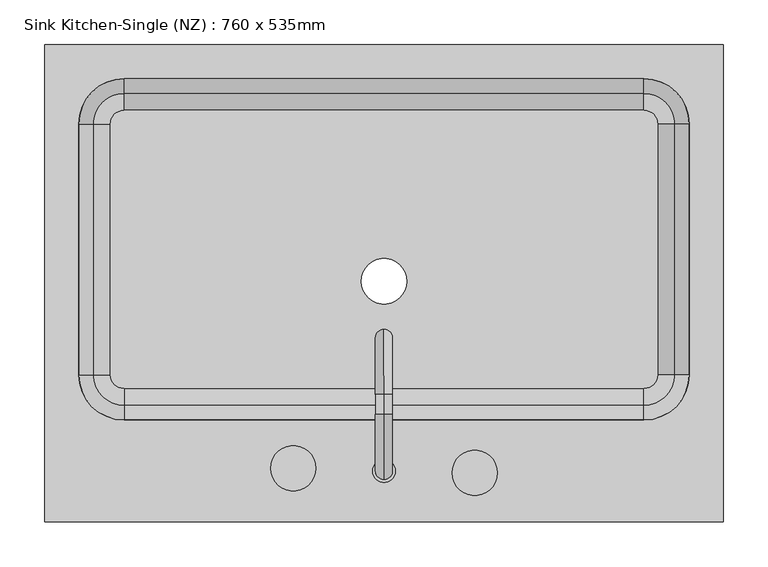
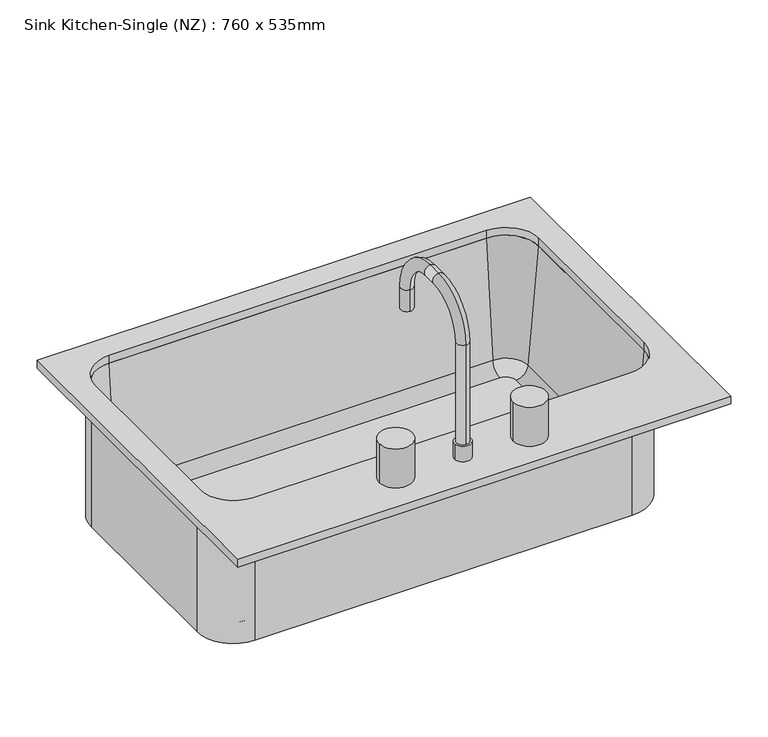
"""IFC4 building model written with IfcOpenShell, lengths in millimetres: flow terminal geometry, Sink Kitchen-Single (NZ) : 760 x 535mm."""

from ifc_helpers import new_model, si_unit, point, frame, frame_2d, origin, place, context, project, spatial, polyline, circle_curve, ellipse_curve, trimmed, segment, composite_curve, outline, extrude, source, transform, mapped, element, save
from ifc_brep_helpers import plane_surface, cylinder_surface, revolved_surface, advanced_brep


def sink_kitchen_single_nz_760_x_535mm_eb015a84(model_context):
    return source(origin(), model_context, "Body", "SolidModel", [
        advanced_brep(
        [(363.9392406, -104.7454011, 684.1), (363.9392406, -104.7454011, 900.0), (306.7892406, -161.8954011, 900.0), (306.7892406, -161.8954011, 684.1), (-275.4107594, -161.8954011, 684.1), (-332.5607594, -104.7454011, 684.1), (-332.5607594, 176.2545989, 684.1), (-275.4107594, 233.4045989, 684.1), (306.7892406, 233.4045989, 684.1), (363.9392406, 176.2545989, 684.1), (-9.7107594, 0.0, 684.1), (41.0892406, 0.0, 684.1), (322.0776588, -104.7454011, 693.625), (322.0776588, 176.2545989, 693.625), (306.7892406, 191.5430171, 693.625), (-275.4107594, 191.5430171, 693.625), (-290.6991776, 176.2545989, 693.625), (-290.6991776, -104.7454011, 693.625), (-275.4107594, -120.0338193, 693.625), (306.7892406, -120.0338193, 693.625), (-9.7107594, 0.0, 693.625), (41.0892406, 0.0, 693.625), (306.7892406, -139.0113283, 711.0146831), (341.0551678, -104.7454011, 711.0146831), (306.7892406, -155.5454011, 900.0), (357.5892406, -104.7454011, 900.0), (363.9392406, 176.2545989, 900.0), (341.0551678, 176.2545989, 711.0146831), (357.5892406, 176.2545989, 900.0), (306.7892406, 233.4045989, 900.0), (306.7892406, 210.5205261, 711.0146831), (306.7892406, 227.0545989, 900.0), (-275.4107594, 233.4045989, 900.0), (-275.4107594, 210.5205261, 711.0146831), (-275.4107594, 227.0545989, 900.0), (-332.5607594, 176.2545989, 900.0), (-309.6766866, 176.2545989, 711.0146831), (-326.2107594, 176.2545989, 900.0), (-332.5607594, -104.7454011, 900.0), (-309.6766866, -104.7454011, 711.0146831), (-326.2107594, -104.7454011, 900.0), (-275.4107594, -161.8954011, 900.0), (-275.4107594, -139.0113283, 711.0146831), (-275.4107594, -155.5454011, 900.0)],
        [
            (0, 1),
            (1, 2, circle_curve(frame((306.7892406, -104.7454011, 900.0), z_axis=(0.0, 0.0, -1.0), x_axis=(0.0, -1.0, 0.0)), 57.15)),
            (2, 3),
            (3, 0, circle_curve(frame((306.7892406, -104.7454011, 684.1), z_axis=(0.0, 0.0, 1.0), x_axis=(0.0, -1.0, 0.0)), 57.15)),
            (3, 4),
            (4, 5, circle_curve(frame((-275.4107594, -104.7454011, 684.1), z_axis=(0.0, 0.0, -1.0), x_axis=(-1.0, 0.0, 0.0)), 57.15)),
            (5, 6),
            (6, 7, circle_curve(frame((-275.4107594, 176.2545989, 684.1), z_axis=(0.0, 0.0, -1.0), x_axis=(0.0, 1.0, 0.0)), 57.15)),
            (7, 8),
            (8, 9, circle_curve(frame((306.7892406, 176.2545989, 684.1), z_axis=(0.0, 0.0, -1.0), x_axis=(1.0, 0.0, 0.0)), 57.15)),
            (9, 0),
            (10, 11, circle_curve(frame((15.6892406, 0.0, 684.1), z_axis=(0.0, 0.0, 1.0), x_axis=(1.0, 0.0, 0.0)), 25.4)),
            (11, 10, circle_curve(frame((15.6892406, 0.0, 684.1), z_axis=(0.0, 0.0, 1.0), x_axis=(1.0, 0.0, 0.0)), 25.4)),
            (12, 13),
            (13, 14, circle_curve(frame((306.7892406, 176.2545989, 693.625), z_axis=(0.0, 0.0, 1.0), x_axis=(1.0, 0.0, 0.0)), 15.2884182)),
            (14, 15),
            (15, 16, circle_curve(frame((-275.4107594, 176.2545989, 693.625), z_axis=(0.0, 0.0, 1.0), x_axis=(0.0, 1.0, 0.0)), 15.2884182)),
            (16, 17),
            (17, 18, circle_curve(frame((-275.4107594, -104.7454011, 693.625), z_axis=(0.0, 0.0, 1.0), x_axis=(-1.0, 0.0, 0.0)), 15.2884182)),
            (18, 19),
            (19, 12, circle_curve(frame((306.7892406, -104.7454011, 693.625), z_axis=(0.0, 0.0, 1.0), x_axis=(0.0, -1.0, 0.0)), 15.2884182)),
            (20, 21, circle_curve(frame((15.6892406, 0.0, 693.625), z_axis=(0.0, 0.0, -1.0), x_axis=(1.0, 0.0, 0.0)), 25.4)),
            (21, 20, circle_curve(frame((15.6892406, 0.0, 693.625), z_axis=(0.0, 0.0, -1.0), x_axis=(1.0, 0.0, 0.0)), 25.4)),
            (19, 22, circle_curve(frame((306.7892406, -120.0338193, 712.675), z_axis=(-1.0, 0.0, 0.0), x_axis=(0.0, -1.0, 0.0)), 19.05)),
            (22, 23, circle_curve(frame((306.7892406, -104.7454011, 711.0146831), z_axis=(0.0, 0.0, 1.0), x_axis=(0.0, -1.0, 0.0)), 34.2659272)),
            (23, 12, circle_curve(frame((322.0776588, -104.7454011, 712.675), z_axis=(0.0, 1.0, 0.0), x_axis=(1.0, 0.0, 0.0)), 19.05)),
            (22, 24),
            (24, 25, circle_curve(frame((306.7892406, -104.7454011, 900.0), z_axis=(0.0, 0.0, 1.0), x_axis=(0.0, -1.0, 0.0)), 50.8)),
            (25, 23),
            (1, 25),
            (24, 2),
            (9, 26),
            (26, 1),
            (23, 27),
            (27, 13, circle_curve(frame((322.0776588, 176.2545989, 712.675), z_axis=(0.0, 1.0, 0.0), x_axis=(1.0, 0.0, 0.0)), 19.05)),
            (25, 28),
            (28, 27),
            (26, 28),
            (8, 29),
            (29, 26, circle_curve(frame((306.7892406, 176.2545989, 900.0), z_axis=(0.0, 0.0, -1.0), x_axis=(1.0, 0.0, 0.0)), 57.15)),
            (27, 30, circle_curve(frame((306.7892406, 176.2545989, 711.0146831), z_axis=(0.0, 0.0, 1.0), x_axis=(1.0, 0.0, 0.0)), 34.2659272)),
            (30, 14, circle_curve(frame((306.7892406, 191.5430171, 712.675), z_axis=(-1.0, 0.0, 0.0), x_axis=(0.0, 1.0, 0.0)), 19.05)),
            (28, 31, circle_curve(frame((306.7892406, 176.2545989, 900.0), z_axis=(0.0, 0.0, 1.0), x_axis=(1.0, 0.0, 0.0)), 50.8)),
            (31, 30),
            (29, 31),
            (7, 32),
            (32, 29),
            (30, 33),
            (33, 15, circle_curve(frame((-275.4107594, 191.5430171, 712.675), z_axis=(-1.0, 0.0, 0.0), x_axis=(0.0, 1.0, 0.0)), 19.05)),
            (31, 34),
            (34, 33),
            (32, 34),
            (6, 35),
            (35, 32, circle_curve(frame((-275.4107594, 176.2545989, 900.0), z_axis=(0.0, 0.0, -1.0), x_axis=(0.0, 1.0, 0.0)), 57.15)),
            (33, 36, circle_curve(frame((-275.4107594, 176.2545989, 711.0146831), z_axis=(0.0, 0.0, 1.0), x_axis=(0.0, 1.0, 0.0)), 34.2659272)),
            (36, 16, circle_curve(frame((-290.6991776, 176.2545989, 712.675), z_axis=(0.0, -1.0, 0.0), x_axis=(-1.0, 0.0, 0.0)), 19.05)),
            (34, 37, circle_curve(frame((-275.4107594, 176.2545989, 900.0), z_axis=(0.0, 0.0, 1.0), x_axis=(0.0, 1.0, 0.0)), 50.8)),
            (37, 36),
            (35, 37),
            (5, 38),
            (38, 35),
            (36, 39),
            (39, 17, circle_curve(frame((-290.6991776, -104.7454011, 712.675), z_axis=(0.0, -1.0, 0.0), x_axis=(-1.0, 0.0, 0.0)), 19.05)),
            (37, 40),
            (40, 39),
            (38, 40),
            (4, 41),
            (41, 38, circle_curve(frame((-275.4107594, -104.7454011, 900.0), z_axis=(0.0, 0.0, -1.0), x_axis=(-1.0, 0.0, 0.0)), 57.15)),
            (39, 42, circle_curve(frame((-275.4107594, -104.7454011, 711.0146831), z_axis=(0.0, 0.0, 1.0), x_axis=(-1.0, 0.0, 0.0)), 34.2659272)),
            (42, 18, circle_curve(frame((-275.4107594, -120.0338193, 712.675), z_axis=(1.0, 0.0, 0.0), x_axis=(0.0, -1.0, 0.0)), 19.05)),
            (40, 43, circle_curve(frame((-275.4107594, -104.7454011, 900.0), z_axis=(0.0, 0.0, 1.0), x_axis=(-1.0, 0.0, 0.0)), 50.8)),
            (43, 42),
            (41, 43),
            (2, 41),
            (42, 22),
            (43, 24),
            (21, 11),
            (10, 20),
        ],
        [
            cylinder_surface(frame((306.7892406, -104.7454011, 0.0), z_axis=(0.0, 0.0, -1.0), x_axis=(0.0, -1.0, 0.0)), 57.15),
            plane_surface(frame((306.7892406, -104.7454011, 684.1), z_axis=(0.0, 0.0, -1.0), x_axis=(0.0, -1.0, 0.0))),
            plane_surface(frame((306.7892406, -104.7454011, 693.625), z_axis=(0.0, 0.0, 1.0), x_axis=(0.0, -1.0, 0.0))),
            revolved_surface(trimmed(ellipse_curve(frame((306.7892406, -120.0338193, 712.675), z_axis=(-1.0, 0.0, 0.0), x_axis=(0.0, -1.0, 0.0)), 19.05, 19.05), [point((306.7892406, -120.0338193, 693.625))], [point((306.7892406, -139.0113283, 711.0146831))], True, "CARTESIAN"), (306.7892406, -104.7454011, 0.0), (0.0, 0.0, -1.0)),
            revolved_surface(polyline([(306.7892406, -139.0113283, 711.0146831), (306.7892406, -155.5454011, 900.0)]), (306.7892406, -104.7454011, 0.0), (0.0, 0.0, -1.0)),
            plane_surface(frame((306.7892406, -104.7454011, 900.0), z_axis=(0.0, 0.0, 1.0), x_axis=(0.0, -1.0, 0.0))),
            plane_surface(frame((363.9392406, -104.7454011, 900.0), z_axis=(1.0, 0.0, 0.0), x_axis=(0.0, 1.0, 0.0))),
            revolved_surface(polyline([(341.1276588, 176.25459890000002, 712.675), (341.1276588, -104.7454011, 712.675)]), (322.0776588, -104.7454011, 712.675), (0.0, 1.0, 0.0)),
            plane_surface(frame((341.0551678, -104.7454011, 711.0146831), z_axis=(-0.9961946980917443, 0.0, 0.08715574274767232), x_axis=(0.0, 1.0, 0.0))),
            plane_surface(frame((357.5892406, -104.7454011, 900.0), z_axis=(0.0, 0.0, 1.0), x_axis=(0.0, 1.0, 0.0))),
            cylinder_surface(frame((306.7892406, 176.2545989, 0.0), z_axis=(0.0, 0.0, -1.0), x_axis=(1.0, 0.0, 0.0)), 57.15),
            revolved_surface(trimmed(ellipse_curve(frame((322.0776588, 176.2545989, 712.675), z_axis=(0.0, -1.0, 0.0), x_axis=(1.0, 0.0, 0.0)), 19.05, 19.05), [point((322.0776588, 176.2545989, 693.625))], [point((341.0551678, 176.2545989, 711.0146831))], True, "CARTESIAN"), (306.7892406, 176.2545989, 0.0), (0.0, 0.0, -1.0)),
            revolved_surface(polyline([(341.0551678, 176.2545989, 711.0146831), (357.5892406, 176.2545989, 900.0)]), (306.7892406, 176.2545989, 0.0), (0.0, 0.0, -1.0)),
            plane_surface(frame((306.7892406, 176.2545989, 900.0), z_axis=(0.0, 0.0, 1.0), x_axis=(1.0, 0.0, 0.0))),
            plane_surface(frame((306.7892406, 233.4045989, 900.0), z_axis=(0.0, 1.0, 0.0), x_axis=(-1.0, 0.0, 0.0))),
            revolved_surface(polyline([(-275.4107594, 210.5930171, 712.675), (306.7892406, 210.5930171, 712.675)]), (306.7892406, 191.5430171, 712.675), (-1.0, 0.0, 0.0)),
            plane_surface(frame((306.7892406, 210.5205261, 711.0146831), z_axis=(0.0, -0.9961946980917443, 0.08715574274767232), x_axis=(-1.0, 0.0, 0.0))),
            plane_surface(frame((306.7892406, 227.0545989, 900.0), z_axis=(0.0, 0.0, 1.0), x_axis=(-1.0, 0.0, 0.0))),
            cylinder_surface(frame((-275.4107594, 176.2545989, 0.0), z_axis=(0.0, 0.0, -1.0), x_axis=(0.0, 1.0, 0.0)), 57.15),
            revolved_surface(trimmed(ellipse_curve(frame((-275.4107594, 191.5430171, 712.675), z_axis=(1.0, 0.0, 0.0), x_axis=(0.0, 1.0, 0.0)), 19.05, 19.05), [point((-275.4107594, 191.5430171, 693.625))], [point((-275.4107594, 210.5205261, 711.0146831))], True, "CARTESIAN"), (-275.4107594, 176.2545989, 0.0), (0.0, 0.0, -1.0)),
            revolved_surface(polyline([(-275.4107594, 210.5205261, 711.0146831), (-275.4107594, 227.0545989, 900.0)]), (-275.4107594, 176.2545989, 0.0), (0.0, 0.0, -1.0)),
            plane_surface(frame((-275.4107594, 176.2545989, 900.0), z_axis=(0.0, 0.0, 1.0), x_axis=(0.0, 1.0, 0.0))),
            plane_surface(frame((-332.5607594, 176.2545989, 900.0), z_axis=(-1.0, 0.0, 0.0), x_axis=(0.0, -1.0, 0.0))),
            revolved_surface(polyline([(-309.7491776, -104.74540110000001, 712.675), (-309.7491776, 176.2545989, 712.675)]), (-290.6991776, 176.2545989, 712.675), (0.0, -1.0, 0.0)),
            plane_surface(frame((-309.6766866, 176.2545989, 711.0146831), z_axis=(0.9961946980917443, 0.0, 0.08715574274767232), x_axis=(0.0, -1.0, 0.0))),
            plane_surface(frame((-326.2107594, 176.2545989, 900.0), z_axis=(0.0, 0.0, 1.0), x_axis=(0.0, -1.0, 0.0))),
            cylinder_surface(frame((-275.4107594, -104.7454011, 0.0), z_axis=(0.0, 0.0, -1.0), x_axis=(-1.0, 0.0, 0.0)), 57.15),
            revolved_surface(trimmed(ellipse_curve(frame((-290.6991776, -104.7454011, 712.675), z_axis=(0.0, 1.0, 0.0), x_axis=(-1.0, 0.0, 0.0)), 19.05, 19.05), [point((-290.6991776, -104.7454011, 693.625))], [point((-309.6766866, -104.7454011, 711.0146831))], True, "CARTESIAN"), (-275.4107594, -104.7454011, 0.0), (0.0, 0.0, -1.0)),
            revolved_surface(polyline([(-309.6766866, -104.7454011, 711.0146831), (-326.2107594, -104.7454011, 900.0)]), (-275.4107594, -104.7454011, 0.0), (0.0, 0.0, -1.0)),
            plane_surface(frame((-275.4107594, -104.7454011, 900.0), z_axis=(0.0, 0.0, 1.0), x_axis=(-1.0, 0.0, 0.0))),
            plane_surface(frame((-275.4107594, -161.8954011, 900.0), z_axis=(0.0, -1.0, 0.0), x_axis=(1.0, 0.0, 0.0))),
            revolved_surface(polyline([(306.7892406, -139.08381930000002, 712.675), (-275.4107594, -139.08381930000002, 712.675)]), (-275.4107594, -120.0338193, 712.675), (1.0, 0.0, 0.0)),
            plane_surface(frame((-275.4107594, -139.0113283, 711.0146831), z_axis=(0.0, 0.9961946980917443, 0.08715574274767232), x_axis=(1.0, 0.0, 0.0))),
            plane_surface(frame((-275.4107594, -155.5454011, 900.0), z_axis=(0.0, 0.0, 1.0), x_axis=(1.0, 0.0, 0.0))),
            revolved_surface(polyline([(41.0892406, 0.0, 684.1), (41.0892406, 0.0, 693.625)]), (15.6892406, 0.0, 0.0), (0.0, 0.0, -1.0)),
        ],
        [
            (0, [[1, 2, 3, 4]]),
            (1, [[5, 6, 7, 8, 9, 10, 11, -4], [12, 13]]),
            (2, [[14, 15, 16, 17, 18, 19, 20, 21], [22, 23]]),
            (3, [[24, 25, 26, -21]]),
            (4, [[27, 28, 29, -25]]),
            (5, [[30, -28, 31, -2]]),
            (6, [[-11, 32, 33, -1]]),
            (7, [[34, 35, -14, -26]]),
            (8, [[36, 37, -34, -29]]),
            (9, [[-33, 38, -36, -30]]),
            (10, [[-10, 39, 40, -32]]),
            (11, [[41, 42, -15, -35]]),
            (12, [[43, 44, -41, -37]]),
            (13, [[-40, 45, -43, -38]]),
            (14, [[-9, 46, 47, -39]]),
            (15, [[48, 49, -16, -42]]),
            (16, [[50, 51, -48, -44]]),
            (17, [[-47, 52, -50, -45]]),
            (18, [[-8, 53, 54, -46]]),
            (19, [[55, 56, -17, -49]]),
            (20, [[57, 58, -55, -51]]),
            (21, [[-54, 59, -57, -52]]),
            (22, [[-7, 60, 61, -53]]),
            (23, [[62, 63, -18, -56]]),
            (24, [[64, 65, -62, -58]]),
            (25, [[-61, 66, -64, -59]]),
            (26, [[-6, 67, 68, -60]]),
            (27, [[69, 70, -19, -63]]),
            (28, [[71, 72, -69, -65]]),
            (29, [[-68, 73, -71, -66]]),
            (30, [[74, -67, -5, -3]]),
            (31, [[-20, -70, 75, -24]]),
            (32, [[-75, -72, 76, -27]]),
            (33, [[-76, -73, -74, -31]]),
            (34, [[77, -12, 78, -23]]),
            (34, [[-78, -13, -77, -22]]),
        ],
    ),
        advanced_brep(
        [(2.9892406, -212.6954011, 938.1), (28.3892406, -212.6954011, 938.1), (15.6892406, -222.2204011, 938.1), (15.6892406, -203.1704011, 938.1), (2.9892406, -212.6954011, 912.7), (28.3892406, -212.6954011, 912.7), (15.6892406, -222.2204011, 1100.025), (15.6892406, -203.1704011, 1100.025), (15.6892406, -149.1954011, 1154.0), (15.6892406, -149.1954011, 1173.05), (15.6892406, -126.9704011, 1154.0), (15.6892406, -126.9704011, 1173.05), (15.6892406, -72.9954011, 1100.025), (15.6892406, -53.9454011, 1100.025), (15.6892406, -53.9454011, 1065.1), (15.6892406, -72.9954011, 1065.1)],
        [
            (0, 1, circle_curve(frame((15.6892406, -212.6954011, 938.1), z_axis=(0.0, 0.0, 1.0), x_axis=(1.0, 0.0, 0.0)), 12.7)),
            (1, 0, circle_curve(frame((15.6892406, -212.6954011, 938.1), z_axis=(0.0, 0.0, 1.0), x_axis=(1.0, 0.0, 0.0)), 12.7)),
            (2, 3, circle_curve(frame((15.6892406, -212.6954011, 938.1), z_axis=(0.0, 0.0, -1.0), x_axis=(0.0, 1.0, 0.0)), 9.525)),
            (3, 2, circle_curve(frame((15.6892406, -212.6954011, 938.1), z_axis=(0.0, 0.0, -1.0), x_axis=(0.0, 1.0, 0.0)), 9.525)),
            (4, 5, circle_curve(frame((15.6892406, -212.6954011, 912.7), z_axis=(0.0, 0.0, -1.0), x_axis=(1.0, 0.0, 0.0)), 12.7)),
            (5, 4, circle_curve(frame((15.6892406, -212.6954011, 912.7), z_axis=(0.0, 0.0, -1.0), x_axis=(1.0, 0.0, 0.0)), 12.7)),
            (1, 5),
            (4, 0),
            (6, 2),
            (3, 7),
            (7, 6, circle_curve(frame((15.6892406, -212.6954011, 1100.025), z_axis=(0.0, 0.0, -1.0), x_axis=(0.0, 1.0, 0.0)), 9.525)),
            (6, 7, circle_curve(frame((15.6892406, -212.6954011, 1100.025), z_axis=(0.0, 0.0, -1.0), x_axis=(0.0, 1.0, 0.0)), 9.525)),
            (7, 8, circle_curve(frame((15.6892406, -149.1954011, 1100.025), z_axis=(-1.0, 0.0, 0.0), x_axis=(0.0, -1.0, 0.0)), 53.975)),
            (8, 9, circle_curve(frame((15.6892406, -149.1954011, 1163.525), z_axis=(0.0, -1.0, 0.0), x_axis=(0.0, 0.0, -1.0)), 9.525)),
            (9, 6, circle_curve(frame((15.6892406, -149.1954011, 1100.025), z_axis=(1.0, 0.0, 0.0), x_axis=(0.0, -1.0, 0.0)), 73.025)),
            (9, 8, circle_curve(frame((15.6892406, -149.1954011, 1163.525), z_axis=(0.0, -1.0, 0.0), x_axis=(0.0, 0.0, -1.0)), 9.525)),
            (8, 10),
            (10, 11, circle_curve(frame((15.6892406, -126.9704011, 1163.525), z_axis=(0.0, -1.0, 0.0), x_axis=(0.0, 0.0, -1.0)), 9.525)),
            (11, 9),
            (11, 10, circle_curve(frame((15.6892406, -126.9704011, 1163.525), z_axis=(0.0, -1.0, 0.0), x_axis=(0.0, 0.0, -1.0)), 9.525)),
            (10, 12, circle_curve(frame((15.6892406, -126.9704011, 1100.025), z_axis=(-1.0, 0.0, 0.0), x_axis=(0.0, 0.0, 1.0)), 53.975)),
            (12, 13, circle_curve(frame((15.6892406, -63.4704011, 1100.025), z_axis=(0.0, 0.0, 1.0), x_axis=(0.0, -1.0, 0.0)), 9.525)),
            (13, 11, circle_curve(frame((15.6892406, -126.9704011, 1100.025), z_axis=(1.0, 0.0, 0.0), x_axis=(0.0, 0.0, 1.0)), 73.025)),
            (13, 12, circle_curve(frame((15.6892406, -63.4704011, 1100.025), z_axis=(0.0, 0.0, 1.0), x_axis=(0.0, -1.0, 0.0)), 9.525)),
            (14, 15, circle_curve(frame((15.6892406, -63.4704011, 1065.1), z_axis=(0.0, 0.0, -1.0), x_axis=(0.0, -1.0, 0.0)), 9.525)),
            (15, 14, circle_curve(frame((15.6892406, -63.4704011, 1065.1), z_axis=(0.0, 0.0, -1.0), x_axis=(0.0, -1.0, 0.0)), 9.525)),
            (12, 15),
            (14, 13),
        ],
        [
            plane_surface(frame((28.3892406, -212.6954011, 938.1), z_axis=(0.0, 0.0, 1.0), x_axis=(0.0, -1.0, 0.0))),
            plane_surface(frame((28.3892406, -212.6954011, 912.7), z_axis=(0.0, 0.0, -1.0), x_axis=(0.0, 1.0, 0.0))),
            cylinder_surface(frame((15.6892406, -212.6954011, 912.7), z_axis=(0.0, 0.0, 1.0), x_axis=(1.0, 0.0, 0.0)), 12.7),
            cylinder_surface(frame((15.6892406, -212.6954011, 912.7), z_axis=(0.0, 0.0, -1.0), x_axis=(0.0, 1.0, 0.0)), 9.525),
            revolved_surface(trimmed(ellipse_curve(frame((15.6892406, -212.6954011, 1100.025), z_axis=(0.0, 0.0, 1.0), x_axis=(0.0, 1.0, 0.0)), 9.525, 9.525), [point((15.6892406, -222.2204011, 1100.025))], [point((15.6892406, -203.1704011, 1100.025))], True, "CARTESIAN"), (15.6892406, -149.1954011, 1100.025), (1.0, 0.0, 0.0)),
            revolved_surface(trimmed(ellipse_curve(frame((15.6892406, -212.6954011, 1100.025), z_axis=(0.0, 0.0, 1.0), x_axis=(0.0, 1.0, 0.0)), 9.525, 9.525), [point((15.6892406, -203.1704011, 1100.025))], [point((15.6892406, -222.2204011, 1100.025))], True, "CARTESIAN"), (15.6892406, -149.1954011, 1100.025), (1.0, 0.0, 0.0)),
            cylinder_surface(frame((15.6892406, -149.1954011, 1163.525), z_axis=(0.0, -1.0, 0.0), x_axis=(0.0, 0.0, -1.0)), 9.525),
            revolved_surface(trimmed(ellipse_curve(frame((15.6892406, -126.9704011, 1163.525), z_axis=(0.0, 1.0, 0.0), x_axis=(0.0, 0.0, -1.0)), 9.525, 9.525), [point((15.6892406, -126.9704011, 1173.05))], [point((15.6892406, -126.9704011, 1154.0))], True, "CARTESIAN"), (15.6892406, -126.9704011, 1100.025), (1.0, 0.0, 0.0)),
            revolved_surface(trimmed(ellipse_curve(frame((15.6892406, -126.9704011, 1163.525), z_axis=(0.0, 1.0, 0.0), x_axis=(0.0, 0.0, -1.0)), 9.525, 9.525), [point((15.6892406, -126.9704011, 1154.0))], [point((15.6892406, -126.9704011, 1173.05))], True, "CARTESIAN"), (15.6892406, -126.9704011, 1100.025), (1.0, 0.0, 0.0)),
            plane_surface(frame((15.6892406, -53.9454011, 1065.1), z_axis=(0.0, 0.0, -1.0), x_axis=(-1.0, 0.0, 0.0))),
            cylinder_surface(frame((15.6892406, -63.4704011, 1100.025), z_axis=(0.0, 0.0, 1.0), x_axis=(0.0, -1.0, 0.0)), 9.525),
        ],
        [
            (0, [[1, 2], [3, 4]]),
            (1, [[5, 6]]),
            (2, [[7, -5, 8, -2]]),
            (2, [[-8, -6, -7, -1]]),
            (3, [[9, -4, 10, 11]]),
            (3, [[-10, -3, -9, 12]]),
            (4, [[13, 14, 15, -11]]),
            (5, [[-15, 16, -13, -12]]),
            (6, [[17, 18, 19, -14]]),
            (6, [[-19, 20, -17, -16]]),
            (7, [[21, 22, 23, -18]]),
            (8, [[-23, 24, -21, -20]]),
            (9, [[25, 26]]),
            (10, [[27, -25, 28, -22]]),
            (10, [[-28, -26, -27, -24]]),
        ],
    ),
        extrude(outline(composite_curve([segment(trimmed(circle_curve(frame_2d((-85.9107594, -209.6166076)), 25.4), [point((-111.3107594, -209.6166076))], [point((-60.5107594, -209.6166076))], False, "CARTESIAN"), True, "CONTINUOUS"), segment(trimmed(circle_curve(frame_2d((-85.9107594, -209.6166076)), 25.4), [point((-60.5107594, -209.6166076))], [point((-111.3107594, -209.6166076))], False, "CARTESIAN"), True, "CONTINUOUS")], self_intersect=False)), frame((0.0, 0.0, 912.7), z_axis=(0.0, 0.0, 1.0), x_axis=(1.0, 0.0, 0.0)), (0.0, 0.0, 1.0), 63.5),
        extrude(outline(composite_curve([segment(trimmed(circle_curve(frame_2d((117.2892406, -214.8133323)), 25.4), [point((91.8892406, -214.8133323))], [point((142.6892406, -214.8133323))], False, "CARTESIAN"), True, "CONTINUOUS"), segment(trimmed(circle_curve(frame_2d((117.2892406, -214.8133323)), 25.4), [point((142.6892406, -214.8133323))], [point((91.8892406, -214.8133323))], False, "CARTESIAN"), True, "CONTINUOUS")], self_intersect=False)), frame((0.0, 0.0, 912.7), z_axis=(0.0, 0.0, 1.0), x_axis=(1.0, 0.0, 0.0)), (0.0, 0.0, 1.0), 63.5),
        extrude(outline(polyline([(395.6892406, -269.8454011), (-364.3107594, -269.8454011), (-364.3107594, 265.1545989), (395.6892406, 265.1545989), (395.6892406, -269.8454011)]), holes=[composite_curve([segment(trimmed(circle_curve(frame_2d((306.7892406, -104.7454011)), 50.8), [point((306.7892406, -155.5454011))], [point((357.5892406, -104.7454011))], True, "CARTESIAN"), True, "CONTINUOUS"), segment(polyline([(357.5892406, -104.7454011), (357.5892406, 176.2545989)]), True, "CONTINUOUS"), segment(trimmed(circle_curve(frame_2d((306.7892406, 176.2545989)), 50.8), [point((357.5892406, 176.2545989))], [point((306.7892406, 227.0545989))], True, "CARTESIAN"), True, "CONTINUOUS"), segment(polyline([(306.7892406, 227.0545989), (-275.4107594, 227.0545989)]), True, "CONTINUOUS"), segment(trimmed(circle_curve(frame_2d((-275.4107594, 176.2545989)), 50.8), [point((-275.4107594, 227.0545989))], [point((-326.2107594, 176.2545989))], True, "CARTESIAN"), True, "CONTINUOUS"), segment(polyline([(-326.2107594, 176.2545989), (-326.2107594, -104.7454011)]), True, "CONTINUOUS"), segment(trimmed(circle_curve(frame_2d((-275.4107594, -104.7454011)), 50.8), [point((-326.2107594, -104.7454011))], [point((-275.4107594, -155.5454011))], True, "CARTESIAN"), True, "CONTINUOUS"), segment(polyline([(-275.4107594, -155.5454011), (306.7892406, -155.5454011)]), True, "CONTINUOUS")], self_intersect=False)]), frame((0.0, 0.0, 900.0), z_axis=(0.0, 0.0, 1.0), x_axis=(1.0, 0.0, 0.0)), (0.0, 0.0, 1.0), 12.7),
    ])


if __name__ == "__main__":
    model = new_model("IFC4")
    model_context = context("Model", 3, world=origin())
    ifc_project = project(units=[si_unit("LENGTHUNIT", "METRE", prefix="MILLI")], contexts=[model_context])
    site = spatial("IfcSite", under=ifc_project)
    building = spatial("IfcBuilding", under=site)
    placement = place(None, origin())
    sink_kitchen_single_nz_760_x_535mm_shape = sink_kitchen_single_nz_760_x_535mm_eb015a84(model_context)
    element("IfcFlowTerminal", 1, ObjectType="Sink Kitchen-Single (NZ) : 760 x 535mm", at=placement, inside=building, context=model_context, shape_type="MappedRepresentation", body=[
        mapped(sink_kitchen_single_nz_760_x_535mm_shape, transform((0.0, 0.0, 0.0), x_axis=(1.0, 0.0, 0.0), y_axis=(0.0, 1.0, 0.0), z_axis=(0.0, 0.0, 1.0))),
    ])
    save(model, "model.ifc")
